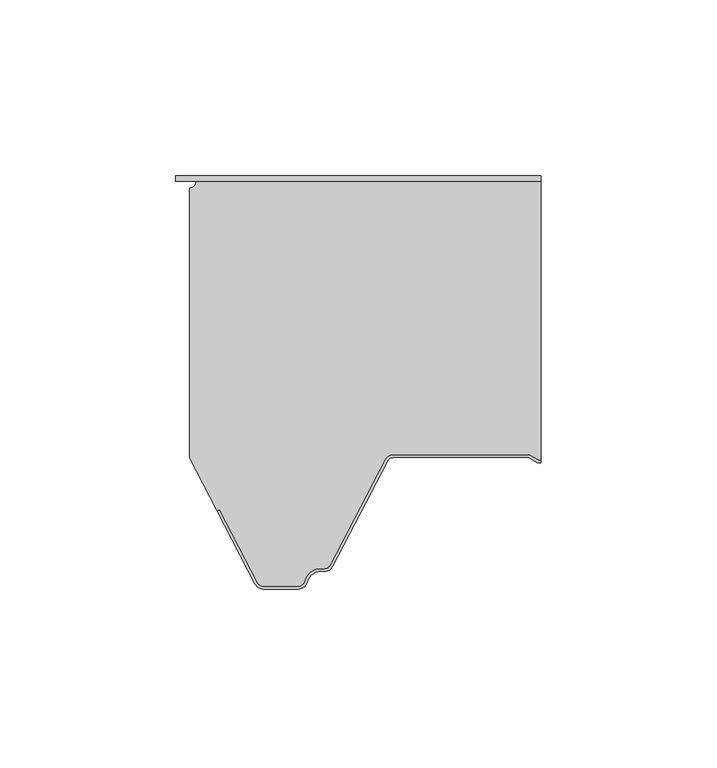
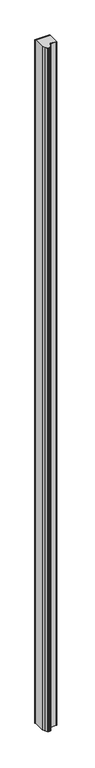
"""IFC4 building model written with IfcOpenShell, lengths in millimetres: plate geometry, Paneles-Sándwich-Madera_PALDR-AC_Curtain-Panel : PALDR AC 80/15."""

from ifc_helpers import new_model, si_unit, frame, origin, origin_with_axes, place, context, project, spatial, polyline, circle_curve, outline, extrude, source, transform, mapped, element, save
from ifc_brep_helpers import plane_surface, cylinder_surface, revolved_surface, advanced_brep


def plate_6eb5bec9(model_context):
    return source(origin(), model_context, "Body", "SolidModel", [
        extrude(outline(polyline([(-53.88, -1.5), (-53.88, 0.0), (50.0, 0.0), (50.0, -1.5), (-53.88, -1.5)])), origin_with_axes(), (0.0, 0.0, 1.0), 5000.0),
        advanced_brep(
        [(-30.6207387, -115.6314818, 0.0), (-41.4414179, -94.855778, 0.0), (-42.1509492, -95.2253256, 0.0), (-50.0, -80.1551481, 0.0), (-50.0, -3.45, 0.0), (-48.05, -1.5, 0.0), (50.0, -1.5, 0.0), (50.0, -80.7, 0.0), (49.2107961, -80.7, 0.0), (46.6127185, -79.2, 0.0), (8.090871, -79.2, 0.0), (5.6075115, -80.7065836, 0.0), (-9.9783733, -110.6314825, 0.0), (-11.574819, -111.6, 0.0), (-12.6272901, -111.6, 0.0), (-17.2841077, -115.2363636, 0.0), (-19.030414, -116.5999997, 0.0), (-29.024293, -116.5999997, 0.0), (-30.6207383, -115.6314813, 5000.0), (-29.024293, -116.5999997, 5000.0), (-19.030414, -116.5999997, 5000.0), (-17.2841077, -115.2363636, 5000.0), (-12.6272901, -111.6, 5000.0), (-11.574819, -111.6, 5000.0), (-9.9783737, -110.631482, 5000.0), (5.6075107, -80.7065835, 5000.0), (8.090871, -79.2, 5000.0), (46.6127185, -79.2, 5000.0), (49.2107961, -80.7, 5000.0), (50.0, -80.7, 5000.0), (50.0, -1.5, 5000.0), (-48.05, -1.5, 5000.0), (-50.0, -3.45, 5000.0), (-50.0, -80.1551481, 5000.0), (-42.1509492, -95.2253256, 5000.0), (-41.4414179, -94.855778, 5000.0)],
        [
            (0, 1),
            (1, 2),
            (2, 3),
            (3, 4),
            (4, 5, circle_curve(frame((-50.0, -1.5, 0.0), z_axis=(0.0, 0.0, 1.0), x_axis=(-1.0, 0.0, 0.0)), 1.95)),
            (5, 6),
            (6, 7),
            (7, 8),
            (8, 9),
            (9, 10),
            (10, 11, circle_curve(frame((8.090871, -82.0, 0.0), z_axis=(0.0, 0.0, 1.0), x_axis=(-1.0, 0.0, 0.0)), 2.8)),
            (11, 12),
            (12, 13, circle_curve(frame((-11.574819, -109.8, 0.0), z_axis=(0.0, 0.0, -1.0), x_axis=(-1.0, 0.0, 0.0)), 1.8)),
            (13, 14),
            (14, 15, circle_curve(frame((-12.6272901, -116.4, 0.0), z_axis=(0.0, 0.0, 1.0), x_axis=(-1.0, 0.0, 0.0)), 4.8)),
            (15, 16, circle_curve(frame((-19.030414, -114.8, 0.0), z_axis=(0.0, 0.0, -1.0), x_axis=(-1.0, 0.0, 0.0)), 1.7999997)),
            (16, 17),
            (17, 0, circle_curve(frame((-29.024293, -114.8, 0.0), z_axis=(0.0, 0.0, -1.0), x_axis=(-1.0, 0.0, 0.0)), 1.7999997)),
            (18, 19, circle_curve(frame((-29.024293, -114.8, 5000.0), z_axis=(0.0, 0.0, 1.0), x_axis=(-1.0, 0.0, 0.0)), 1.7999997)),
            (19, 20),
            (20, 21, circle_curve(frame((-19.030414, -114.8, 5000.0), z_axis=(0.0, 0.0, 1.0), x_axis=(-1.0, 0.0, 0.0)), 1.7999997)),
            (21, 22, circle_curve(frame((-12.6272901, -116.4, 5000.0), z_axis=(0.0, 0.0, -1.0), x_axis=(-1.0, 0.0, 0.0)), 4.8)),
            (22, 23),
            (23, 24, circle_curve(frame((-11.574819, -109.8, 5000.0), z_axis=(0.0, 0.0, 1.0), x_axis=(-1.0, 0.0, 0.0)), 1.8)),
            (24, 25),
            (25, 26, circle_curve(frame((8.090871, -82.0, 5000.0), z_axis=(0.0, 0.0, -1.0), x_axis=(-1.0, 0.0, 0.0)), 2.8)),
            (26, 27),
            (27, 28),
            (28, 29),
            (29, 30),
            (30, 31),
            (31, 32, circle_curve(frame((-50.0, -1.5, 5000.0), z_axis=(0.0, 0.0, -1.0), x_axis=(-1.0, 0.0, 0.0)), 1.95)),
            (32, 33),
            (33, 34),
            (34, 35),
            (35, 18),
            (0, 18),
            (35, 1),
            (34, 2),
            (33, 3),
            (32, 4),
            (5, 31),
            (30, 6),
            (28, 8),
            (7, 29),
            (27, 9),
            (26, 10),
            (25, 11),
            (24, 12),
            (23, 13),
            (22, 14),
            (21, 15),
            (20, 16),
            (19, 17),
        ],
        [
            plane_surface(frame((-50.0, 0.0, 0.0), z_axis=(0.0, 0.0, -1.0), x_axis=(0.0, 1.0, 0.0))),
            plane_surface(frame((-50.0, 0.0, 5000.0), z_axis=(0.0, 0.0, 1.0), x_axis=(0.0, 1.0, 0.0))),
            plane_surface(frame((-30.6207387, -115.6314818, 0.0), z_axis=(-0.8869140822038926, -0.4619344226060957, 0.0), x_axis=(0.0, 0.0, 1.0))),
            plane_surface(frame((-41.4414179, -94.855778, 0.0), z_axis=(0.4619344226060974, -0.8869140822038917, 0.0), x_axis=(0.0, 0.0, 1.0))),
            plane_surface(frame((-42.1509492, -95.2253256, 0.0), z_axis=(-0.8869140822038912, -0.46193442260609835, 0.0), x_axis=(0.0, 0.0, 1.0))),
            plane_surface(frame((-50.0, -80.1551481, 0.0), z_axis=(-1.0, 0.0, 0.0), x_axis=(0.0, 0.0, 1.0))),
            plane_surface(frame((-48.05, -1.5, 0.0), z_axis=(0.0, 1.0, 0.0), x_axis=(0.0, 0.0, 1.0))),
            plane_surface(frame((81.5859248, -80.7, 0.0), z_axis=(0.0, -1.0, 0.0), x_axis=(0.0, 0.0, 1.0))),
            plane_surface(frame((49.2107961, -80.7, 0.0), z_axis=(-0.49999979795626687, -0.866025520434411, 0.0), x_axis=(0.0, 0.0, 1.0))),
            plane_surface(frame((46.6127185, -79.2, 0.0), z_axis=(0.0, -1.0, 0.0), x_axis=(0.0, 0.0, 1.0))),
            revolved_surface(polyline([(5.290871, -82.0, 5000.0), (5.290871, -82.0, 0.0)]), (8.090871, -82.0, 0.0), (0.0, 0.0, 1.0)),
            plane_surface(frame((5.6075107, -80.7065835, 0.0), z_axis=(0.8869140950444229, -0.4619343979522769, 0.0), x_axis=(0.0, 0.0, 1.0))),
            cylinder_surface(frame((-11.574819, -109.8, 0.0), z_axis=(0.0, 0.0, -1.0), x_axis=(-1.0, 0.0, 0.0)), 1.8),
            plane_surface(frame((-11.574819, -111.6, 0.0), z_axis=(0.0, -1.0, 0.0), x_axis=(0.0, 0.0, 1.0))),
            revolved_surface(polyline([(-17.4272901, -116.4, 5000.0), (-17.4272901, -116.4, 0.0)]), (-12.6272901, -116.4, 0.0), (0.0, 0.0, 1.0)),
            cylinder_surface(frame((-19.030414, -114.8, 0.0), z_axis=(0.0, 0.0, -1.0), x_axis=(-1.0, 0.0, 0.0)), 1.7999997),
            plane_surface(frame((-19.030414, -116.5999997, 0.0), z_axis=(0.0, -1.0, 0.0), x_axis=(0.0, 0.0, 1.0))),
            cylinder_surface(frame((-29.024293, -114.8, 0.0), z_axis=(0.0, 0.0, -1.0), x_axis=(-1.0, 0.0, 0.0)), 1.7999997),
            revolved_surface(polyline([(-51.95, -1.5, 5000.0), (-51.95, -1.5, 0.0)]), (-50.0, -1.5, 0.0), (0.0, 0.0, 1.0)),
            plane_surface(frame((50.0, 0.0, 5000.0), z_axis=(1.0, 0.0, 0.0), x_axis=(0.0, 0.0, -1.0))),
        ],
        [
            (0, [[1, 2, 3, 4, 5, 6, 7, 8, 9, 10, 11, 12, 13, 14, 15, 16, 17, 18]]),
            (1, [[19, 20, 21, 22, 23, 24, 25, 26, 27, 28, 29, 30, 31, 32, 33, 34, 35, 36]]),
            (2, [[-1, 37, -36, 38]]),
            (3, [[-2, -38, -35, 39]]),
            (4, [[-3, -39, -34, 40]]),
            (5, [[-4, -40, -33, 41]]),
            (6, [[42, -31, 43, -6]]),
            (7, [[44, -8, 45, -29]]),
            (8, [[-9, -44, -28, 46]]),
            (9, [[-10, -46, -27, 47]]),
            (10, [[-11, -47, -26, 48]]),
            (11, [[-12, -48, -25, 49]]),
            (12, [[-13, -49, -24, 50]]),
            (13, [[-14, -50, -23, 51]]),
            (14, [[-15, -51, -22, 52]]),
            (15, [[-16, -52, -21, 53]]),
            (16, [[-17, -53, -20, 54]]),
            (17, [[-18, -54, -19, -37]]),
            (18, [[-5, -41, -32, -42]]),
            (19, [[-7, -43, -30, -45]]),
        ],
    ),
        advanced_brep(
        [(49.2107962, -80.7, 5000.0), (46.6127186, -79.2, 5000.0), (8.090871, -79.2, 5000.0), (5.6075116, -80.7065836, 5000.0), (-9.9783733, -110.6314825, 5000.0), (-11.574819, -111.6, 5000.0), (-12.62729, -111.6, 5000.0), (-17.2841076, -115.2363636, 5000.0), (-19.030414, -116.6, 5000.0), (-29.024293, -116.6, 5000.0), (-30.6207383, -115.631482, 5000.0), (-41.4404688, -94.8576004, 5000.0), (-42.15, -95.227148, 5000.0), (-31.33027, -116.00103, 5000.0), (-29.024293, -117.4, 5000.0), (-19.030414, -117.4, 5000.0), (-16.5079711, -115.4303031, 5000.0), (-12.62729, -112.4, 5000.0), (-11.574819, -112.4, 5000.0), (-9.2688424, -111.0010295, 5000.0), (6.317042, -81.076131, 5000.0), (8.090871, -80.0, 5000.0), (46.3983593, -80.0, 5000.0), (48.9964369, -81.5, 5000.0), (50.0, -81.5, 5000.0), (50.0, -80.7, 5000.0), (48.9964369, -81.5, 0.0), (46.3983593, -80.0, 0.0), (8.090871, -80.0, 0.0), (6.3170428, -81.0761312, 0.0), (-9.268842, -111.00103, 0.0), (-11.574819, -112.4, 0.0), (-12.62729, -112.4, 0.0), (-16.5079713, -115.430303, 0.0), (-19.030414, -117.4, 0.0), (-29.024293, -117.4, 0.0), (-31.3302696, -116.0010295, 0.0), (-42.15, -95.227148, 0.0), (-41.4404688, -94.8576004, 0.0), (-30.6207387, -115.6314825, 0.0), (-29.024293, -116.6, 0.0), (-19.030414, -116.6, 0.0), (-17.2841074, -115.2363637, 0.0), (-12.62729, -111.6, 0.0), (-11.574819, -111.6, 0.0), (-9.9783737, -110.631482, 0.0), (5.6075107, -80.7065835, 0.0), (8.090871, -79.2, 0.0), (46.6127186, -79.2, 0.0), (49.2107962, -80.7, 0.0), (50.0, -80.7, 0.0), (50.0, -81.5, 0.0)],
        [
            (0, 1),
            (1, 2),
            (2, 3, circle_curve(frame((8.090871, -82.0, 5000.0), z_axis=(0.0, 0.0, 1.0), x_axis=(1.0, 0.0, 0.0)), 2.8)),
            (3, 4),
            (4, 5, circle_curve(frame((-11.574819, -109.8, 5000.0), z_axis=(0.0, 0.0, -1.0), x_axis=(1.0, 0.0, 0.0)), 1.8)),
            (5, 6),
            (6, 7, circle_curve(frame((-12.62729, -116.4, 5000.0), z_axis=(0.0, 0.0, 1.0), x_axis=(1.0, 0.0, 0.0)), 4.8)),
            (7, 8, circle_curve(frame((-19.030414, -114.8, 5000.0), z_axis=(0.0, 0.0, -1.0), x_axis=(1.0, 0.0, 0.0)), 1.8)),
            (8, 9),
            (9, 10, circle_curve(frame((-29.024293, -114.8, 5000.0), z_axis=(0.0, 0.0, -1.0), x_axis=(1.0, 0.0, 0.0)), 1.8)),
            (10, 11),
            (11, 12),
            (12, 13),
            (13, 14, circle_curve(frame((-29.024293, -114.8, 5000.0), z_axis=(0.0, 0.0, 1.0), x_axis=(1.0, 0.0, 0.0)), 2.6)),
            (14, 15),
            (15, 16, circle_curve(frame((-19.030414, -114.8, 5000.0), z_axis=(0.0, 0.0, 1.0), x_axis=(1.0, 0.0, 0.0)), 2.6)),
            (16, 17, circle_curve(frame((-12.62729, -116.4, 5000.0), z_axis=(0.0, 0.0, -1.0), x_axis=(1.0, 0.0, 0.0)), 4.0)),
            (17, 18),
            (18, 19, circle_curve(frame((-11.574819, -109.8, 5000.0), z_axis=(0.0, 0.0, 1.0), x_axis=(1.0, 0.0, 0.0)), 2.6)),
            (19, 20),
            (20, 21, circle_curve(frame((8.090871, -82.0, 5000.0), z_axis=(0.0, 0.0, -1.0), x_axis=(1.0, 0.0, 0.0)), 2.0)),
            (21, 22),
            (22, 23),
            (23, 24),
            (24, 25),
            (25, 0),
            (26, 27),
            (27, 28),
            (28, 29, circle_curve(frame((8.090871, -82.0, 0.0), z_axis=(0.0, 0.0, 1.0), x_axis=(1.0, 0.0, 0.0)), 2.0)),
            (29, 30),
            (30, 31, circle_curve(frame((-11.574819, -109.8, 0.0), z_axis=(0.0, 0.0, -1.0), x_axis=(1.0, 0.0, 0.0)), 2.6)),
            (31, 32),
            (32, 33, circle_curve(frame((-12.62729, -116.4, 0.0), z_axis=(0.0, 0.0, 1.0), x_axis=(1.0, 0.0, 0.0)), 4.0)),
            (33, 34, circle_curve(frame((-19.030414, -114.8, 0.0), z_axis=(0.0, 0.0, -1.0), x_axis=(1.0, 0.0, 0.0)), 2.6)),
            (34, 35),
            (35, 36, circle_curve(frame((-29.024293, -114.8, 0.0), z_axis=(0.0, 0.0, -1.0), x_axis=(1.0, 0.0, 0.0)), 2.6)),
            (36, 37),
            (37, 38),
            (38, 39),
            (39, 40, circle_curve(frame((-29.024293, -114.8, 0.0), z_axis=(0.0, 0.0, 1.0), x_axis=(1.0, 0.0, 0.0)), 1.8)),
            (40, 41),
            (41, 42, circle_curve(frame((-19.030414, -114.8, 0.0), z_axis=(0.0, 0.0, 1.0), x_axis=(1.0, 0.0, 0.0)), 1.8)),
            (42, 43, circle_curve(frame((-12.62729, -116.4, 0.0), z_axis=(0.0, 0.0, -1.0), x_axis=(1.0, 0.0, 0.0)), 4.8)),
            (43, 44),
            (44, 45, circle_curve(frame((-11.574819, -109.8, 0.0), z_axis=(0.0, 0.0, 1.0), x_axis=(1.0, 0.0, 0.0)), 1.8)),
            (45, 46),
            (46, 47, circle_curve(frame((8.090871, -82.0, 0.0), z_axis=(0.0, 0.0, -1.0), x_axis=(1.0, 0.0, 0.0)), 2.8)),
            (47, 48),
            (48, 49),
            (49, 50),
            (50, 51),
            (51, 26),
            (49, 0),
            (25, 50),
            (48, 1),
            (47, 2),
            (46, 3),
            (45, 4),
            (44, 5),
            (43, 6),
            (42, 7),
            (41, 8),
            (40, 9),
            (39, 10),
            (38, 11),
            (37, 12),
            (36, 13),
            (35, 14),
            (34, 15),
            (33, 16),
            (32, 17),
            (31, 18),
            (30, 19),
            (29, 20),
            (28, 21),
            (27, 22),
            (26, 23),
            (51, 24),
        ],
        [
            plane_surface(frame((-50.0, -80.0, 5000.0), z_axis=(0.0, 0.0, 1.0), x_axis=(0.0, 1.0, 0.0))),
            plane_surface(frame((-50.0, -80.0, 0.0), z_axis=(0.0, 0.0, -1.0), x_axis=(0.0, 1.0, 0.0))),
            plane_surface(frame((81.5859248, -80.7, 5000.0), z_axis=(0.0, 1.0, 0.0), x_axis=(0.0, 0.0, -1.0))),
            plane_surface(frame((49.2107962, -80.7, 5000.0), z_axis=(0.4999997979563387, 0.8660255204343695, 0.0), x_axis=(0.0, 0.0, -1.0))),
            plane_surface(frame((46.6127186, -79.2, 5000.0), z_axis=(0.0, 1.0, 0.0), x_axis=(0.0, 0.0, -1.0))),
            cylinder_surface(frame((8.090871, -82.0, 5000.0), z_axis=(0.0, 0.0, 1.0), x_axis=(1.0, 0.0, 0.0)), 2.8),
            plane_surface(frame((5.6075107, -80.7065835, 5000.0), z_axis=(-0.8869140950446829, 0.4619343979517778, 0.0), x_axis=(0.0, 0.0, -1.0))),
            revolved_surface(polyline([(-9.774818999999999, -109.8, 0.0), (-9.774818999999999, -109.8, 5000.0)]), (-11.574819, -109.8, 5000.0), (0.0, 0.0, -1.0)),
            plane_surface(frame((-11.574819, -111.6, 5000.0), z_axis=(0.0, 1.0, 0.0), x_axis=(0.0, 0.0, -1.0))),
            cylinder_surface(frame((-12.62729, -116.4, 5000.0), z_axis=(0.0, 0.0, 1.0), x_axis=(1.0, 0.0, 0.0)), 4.8),
            revolved_surface(polyline([(-17.230414, -114.8, 0.0), (-17.230414, -114.8, 5000.0)]), (-19.030414, -114.8, 5000.0), (0.0, 0.0, -1.0)),
            plane_surface(frame((-19.030414, -116.6, 5000.0), z_axis=(0.0, 1.0, 0.0), x_axis=(0.0, 0.0, -1.0))),
            revolved_surface(polyline([(-27.224293, -114.8, 0.0), (-27.224293, -114.8, 5000.0)]), (-29.024293, -114.8, 5000.0), (0.0, 0.0, -1.0)),
            plane_surface(frame((-30.6207387, -115.6314825, 5000.0), z_axis=(0.8869140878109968, 0.46193441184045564, 0.0), x_axis=(0.0, 0.0, -1.0))),
            plane_surface(frame((-41.4404688, -94.8576004, 5000.0), z_axis=(-0.46193450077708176, 0.8869140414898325, 0.0), x_axis=(0.0, 0.0, -1.0))),
            plane_surface(frame((-42.15, -95.227148, 5000.0), z_axis=(-0.8869140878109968, -0.46193441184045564, 0.0), x_axis=(0.0, 0.0, -1.0))),
            cylinder_surface(frame((-29.024293, -114.8, 5000.0), z_axis=(0.0, 0.0, 1.0), x_axis=(1.0, 0.0, 0.0)), 2.6),
            plane_surface(frame((-29.024293, -117.4, 5000.0), z_axis=(0.0, -1.0, 0.0), x_axis=(0.0, 0.0, -1.0))),
            cylinder_surface(frame((-19.030414, -114.8, 5000.0), z_axis=(0.0, 0.0, 1.0), x_axis=(1.0, 0.0, 0.0)), 2.6),
            revolved_surface(polyline([(-8.62729, -116.4, 0.0), (-8.62729, -116.4, 5000.0)]), (-12.62729, -116.4, 5000.0), (0.0, 0.0, -1.0)),
            plane_surface(frame((-12.62729, -112.4, 5000.0), z_axis=(0.0, -1.0, 0.0), x_axis=(0.0, 0.0, -1.0))),
            cylinder_surface(frame((-11.574819, -109.8, 5000.0), z_axis=(0.0, 0.0, 1.0), x_axis=(1.0, 0.0, 0.0)), 2.6),
            plane_surface(frame((-9.268842, -111.00103, 5000.0), z_axis=(0.8869140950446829, -0.4619343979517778, 0.0), x_axis=(0.0, 0.0, -1.0))),
            revolved_surface(polyline([(10.090871, -82.0, 0.0), (10.090871, -82.0, 5000.0)]), (8.090871, -82.0, 5000.0), (0.0, 0.0, -1.0)),
            plane_surface(frame((8.090871, -80.0, 5000.0), z_axis=(0.0, -1.0, 0.0), x_axis=(0.0, 0.0, -1.0))),
            plane_surface(frame((46.3983593, -80.0, 5000.0), z_axis=(-0.4999997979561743, -0.8660255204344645, 0.0), x_axis=(0.0, 0.0, -1.0))),
            plane_surface(frame((48.9964369, -81.5, 5000.0), z_axis=(0.0, -1.0, 0.0), x_axis=(0.0, 0.0, -1.0))),
            plane_surface(frame((50.0, 0.0, 5000.0), z_axis=(1.0, 0.0, 0.0), x_axis=(0.0, 0.0, -1.0))),
        ],
        [
            (0, [[1, 2, 3, 4, 5, 6, 7, 8, 9, 10, 11, 12, 13, 14, 15, 16, 17, 18, 19, 20, 21, 22, 23, 24, 25, 26]]),
            (1, [[27, 28, 29, 30, 31, 32, 33, 34, 35, 36, 37, 38, 39, 40, 41, 42, 43, 44, 45, 46, 47, 48, 49, 50, 51, 52]]),
            (2, [[53, -26, 54, -50]]),
            (3, [[-1, -53, -49, 55]]),
            (4, [[-2, -55, -48, 56]]),
            (5, [[-3, -56, -47, 57]]),
            (6, [[-4, -57, -46, 58]]),
            (7, [[-5, -58, -45, 59]]),
            (8, [[-6, -59, -44, 60]]),
            (9, [[-7, -60, -43, 61]]),
            (10, [[-8, -61, -42, 62]]),
            (11, [[-9, -62, -41, 63]]),
            (12, [[-10, -63, -40, 64]]),
            (13, [[-11, -64, -39, 65]]),
            (14, [[-12, -65, -38, 66]]),
            (15, [[-13, -66, -37, 67]]),
            (16, [[-14, -67, -36, 68]]),
            (17, [[-15, -68, -35, 69]]),
            (18, [[-16, -69, -34, 70]]),
            (19, [[-17, -70, -33, 71]]),
            (20, [[-18, -71, -32, 72]]),
            (21, [[-19, -72, -31, 73]]),
            (22, [[-20, -73, -30, 74]]),
            (23, [[-21, -74, -29, 75]]),
            (24, [[-22, -75, -28, 76]]),
            (25, [[-23, -76, -27, 77]]),
            (26, [[-77, -52, 78, -24]]),
            (27, [[-25, -78, -51, -54]]),
        ],
    ),
    ])


if __name__ == "__main__":
    model = new_model("IFC4")
    model_context = context("Model", 3, world=origin())
    ifc_project = project(units=[si_unit("LENGTHUNIT", "METRE", prefix="MILLI")], contexts=[model_context])
    site = spatial("IfcSite", under=ifc_project)
    building = spatial("IfcBuilding", under=site)
    placement = place(None, origin())
    plate_shape = plate_6eb5bec9(model_context)
    element("IfcPlate", 1, ObjectType="Paneles-Sándwich-Madera_PALDR-AC_Curtain-Panel : PALDR AC 80/15", at=placement, inside=building, context=model_context, shape_type="MappedRepresentation", body=[
        mapped(plate_shape, transform((0.0, 0.0, 0.0), x_axis=(1.0, 0.0, 0.0), y_axis=(0.0, 1.0, 0.0), z_axis=(0.0, 0.0, 1.0))),
    ])
    save(model, "model.ifc")
